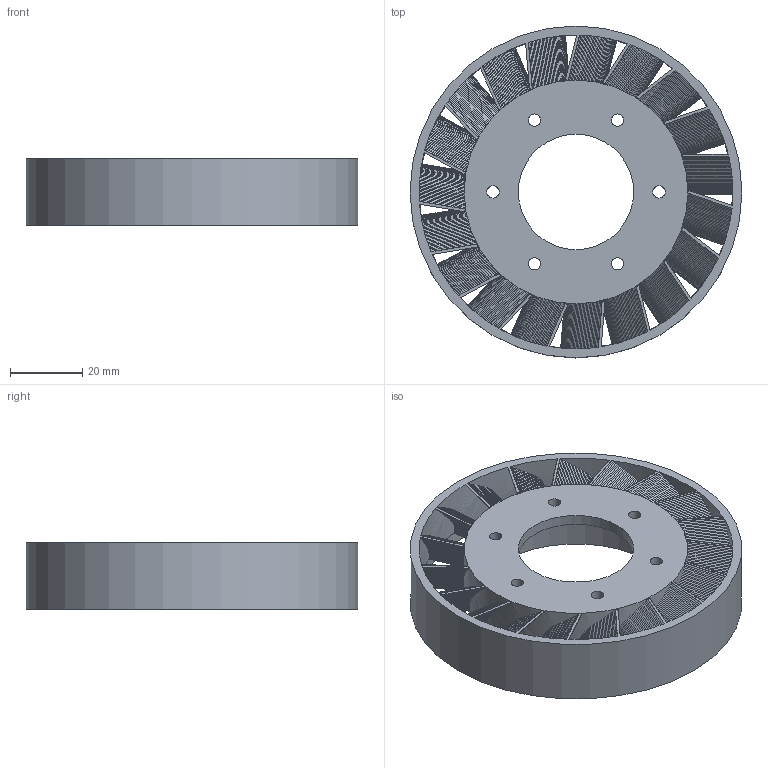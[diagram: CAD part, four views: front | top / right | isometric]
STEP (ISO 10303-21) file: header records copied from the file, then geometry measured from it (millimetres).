
FILE_DESCRIPTION(('Open CASCADE Model'),'2;1');
FILE_NAME('Open CASCADE Shape Model','2026-09-23T05:00:14',('Author'),( 'Open CASCADE'),'Open CASCADE STEP processor 7.9','Open CASCADE 7.9' ,'Unknown');
FILE_SCHEMA(('AUTOMOTIVE_DESIGN { 1 0 10303 214 1 1 1 1 }'));
Length unit declared in the file: millimetre
Products named in the file (1): Open CASCADE STEP translator 7.9 1
Bounding box: 92 x 92 x 18.5 mm (x, y, z)
Volume: 32652 mm3; surface area: 31193.2 mm2
Topology: 1 solids, 1 shells, 2069 faces, 6306 edges, 4204 vertices
Faces by surface type: bspline 1976, plane 62, cylinder 31
Full cylindrical faces by diameter (mm): 3.4 x6, 32 x1, 57.02 x1, 60.4 x1, 62.02 x1, 88.6 x1, 92 x1
Entity records: 179244 total; most frequent: CARTESIAN_POINT 88017, B_SPLINE_CURVE_WITH_KNOTS 14431, ORIENTED_EDGE 12612, PCURVE 12612, DEFINITIONAL_REPRESENTATION 12612, EDGE_CURVE 6306, SURFACE_CURVE 6294, DIRECTION 4778
